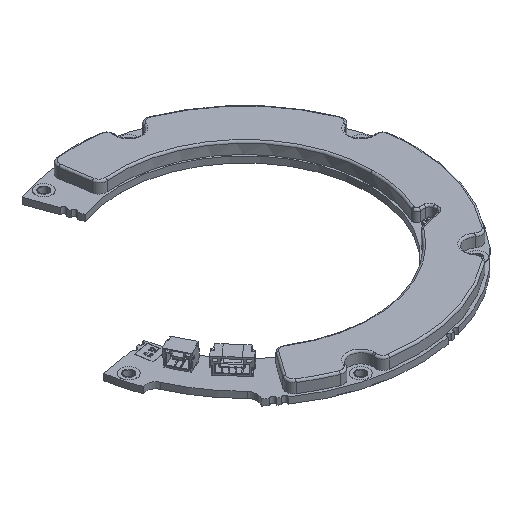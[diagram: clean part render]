
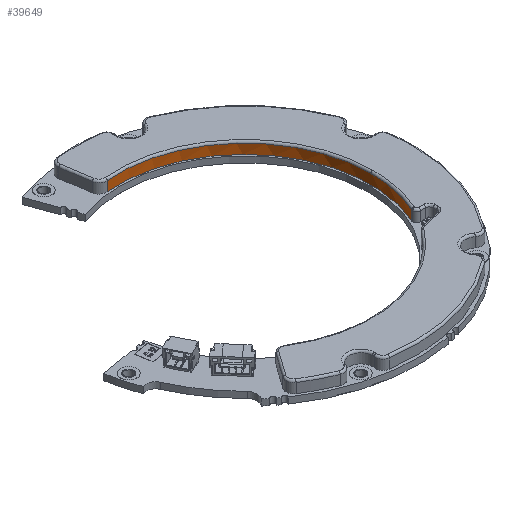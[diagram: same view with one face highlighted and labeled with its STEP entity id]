
A CAD part, isometric view. The second image highlights one B-rep face of the part: STEP entity #39649.
In plain terms, the highlighted cylindrical face has radius 32.65 mm (diameter 65.3 mm), a partial arc.
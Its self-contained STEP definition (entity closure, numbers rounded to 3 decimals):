
#137 = CARTESIAN_POINT ( 'NONE',  ( 16.286, -10.049, 0. ) ) ;
#1514 = DIRECTION ( 'NONE',  ( 0., 0., -1. ) ) ;
#3381 = EDGE_CURVE ( 'NONE', #6794, #28377, #15599, .T. ) ;
#3386 = ORIENTED_EDGE ( 'NONE', *, *, #44828, .T. ) ;
#5066 = CARTESIAN_POINT ( 'NONE',  ( 19.4, -42.55, 3. ) ) ;
#5142 = EDGE_CURVE ( 'NONE', #21943, #28377, #33713, .T. ) ;
#6794 = VERTEX_POINT ( 'NONE', #9839 ) ;
#7190 = DIRECTION ( 'NONE',  ( 1., 0., 0. ) ) ;
#7806 = CIRCLE ( 'NONE', #10080, 32.65 ) ;
#8640 = DIRECTION ( 'NONE',  ( -1., 0., 0. ) ) ;
#9839 = CARTESIAN_POINT ( 'NONE',  ( 49.178, -55.94, 0. ) ) ;
#10080 = AXIS2_PLACEMENT_3D ( 'NONE', #11361, #39702, #40191 ) ;
#10221 = AXIS2_PLACEMENT_3D ( 'NONE', #18210, #13939, #7190 ) ;
#10643 = EDGE_CURVE ( 'NONE', #27036, #27139, #7806, .T. ) ;
#11361 = CARTESIAN_POINT ( 'NONE',  ( 19.4, -42.55, 2.5 ) ) ;
#12255 = FACE_OUTER_BOUND ( 'NONE', #38682, .T. ) ;
#12507 = CARTESIAN_POINT ( 'NONE',  ( 16.286, -10.049, 3. ) ) ;
#12980 = DIRECTION ( 'NONE',  ( 1., 0., 0. ) ) ;
#13256 = CARTESIAN_POINT ( 'NONE',  ( 49.178, -55.94, 2.5 ) ) ;
#13939 = DIRECTION ( 'NONE',  ( 0., 0., 1. ) ) ;
#14418 = CIRCLE ( 'NONE', #41025, 32.65 ) ;
#15599 = CIRCLE ( 'NONE', #10221, 32.65 ) ;
#17467 = CARTESIAN_POINT ( 'NONE',  ( 16.286, -10.049, 2.5 ) ) ;
#18210 = CARTESIAN_POINT ( 'NONE',  ( 19.4, -42.55, 0. ) ) ;
#20877 = CARTESIAN_POINT ( 'NONE',  ( 52.05, -42.55, 2.5 ) ) ;
#21943 = VERTEX_POINT ( 'NONE', #17467 ) ;
#24019 = VECTOR ( 'NONE', #1514, 1000. ) ;
#24048 = LINE ( 'NONE', #46172, #32011 ) ;
#26955 = AXIS2_PLACEMENT_3D ( 'NONE', #5066, #45106, #8640 ) ;
#27036 = VERTEX_POINT ( 'NONE', #13256 ) ;
#27139 = VERTEX_POINT ( 'NONE', #20877 ) ;
#27309 = CARTESIAN_POINT ( 'NONE',  ( 19.4, -42.55, 2.5 ) ) ;
#28377 = VERTEX_POINT ( 'NONE', #137 ) ;
#32011 = VECTOR ( 'NONE', #33636, 1000. ) ;
#32072 = ORIENTED_EDGE ( 'NONE', *, *, #3381, .F. ) ;
#33332 = ORIENTED_EDGE ( 'NONE', *, *, #10643, .T. ) ;
#33636 = DIRECTION ( 'NONE',  ( 0., 0., 1. ) ) ;
#33713 = LINE ( 'NONE', #12507, #24019 ) ;
#37044 = EDGE_CURVE ( 'NONE', #27139, #21943, #14418, .T. ) ;
#38682 = EDGE_LOOP ( 'NONE', ( #3386, #33332, #42976, #39497, #32072 ) ) ;
#39497 = ORIENTED_EDGE ( 'NONE', *, *, #5142, .T. ) ;
#39649 = ADVANCED_FACE ( 'NONE', ( #12255 ), #44880, .F. ) ;
#39702 = DIRECTION ( 'NONE',  ( 0., 0., 1. ) ) ;
#40191 = DIRECTION ( 'NONE',  ( 1., 0., 0. ) ) ;
#41025 = AXIS2_PLACEMENT_3D ( 'NONE', #27309, #45359, #12980 ) ;
#42976 = ORIENTED_EDGE ( 'NONE', *, *, #37044, .T. ) ;
#44828 = EDGE_CURVE ( 'NONE', #6794, #27036, #24048, .T. ) ;
#44880 = CYLINDRICAL_SURFACE ( 'NONE', #26955, 32.65 ) ;
#45106 = DIRECTION ( 'NONE',  ( 0., 0., -1. ) ) ;
#45359 = DIRECTION ( 'NONE',  ( 0., 0., 1. ) ) ;
#46172 = CARTESIAN_POINT ( 'NONE',  ( 49.178, -55.94, 3. ) ) ;
